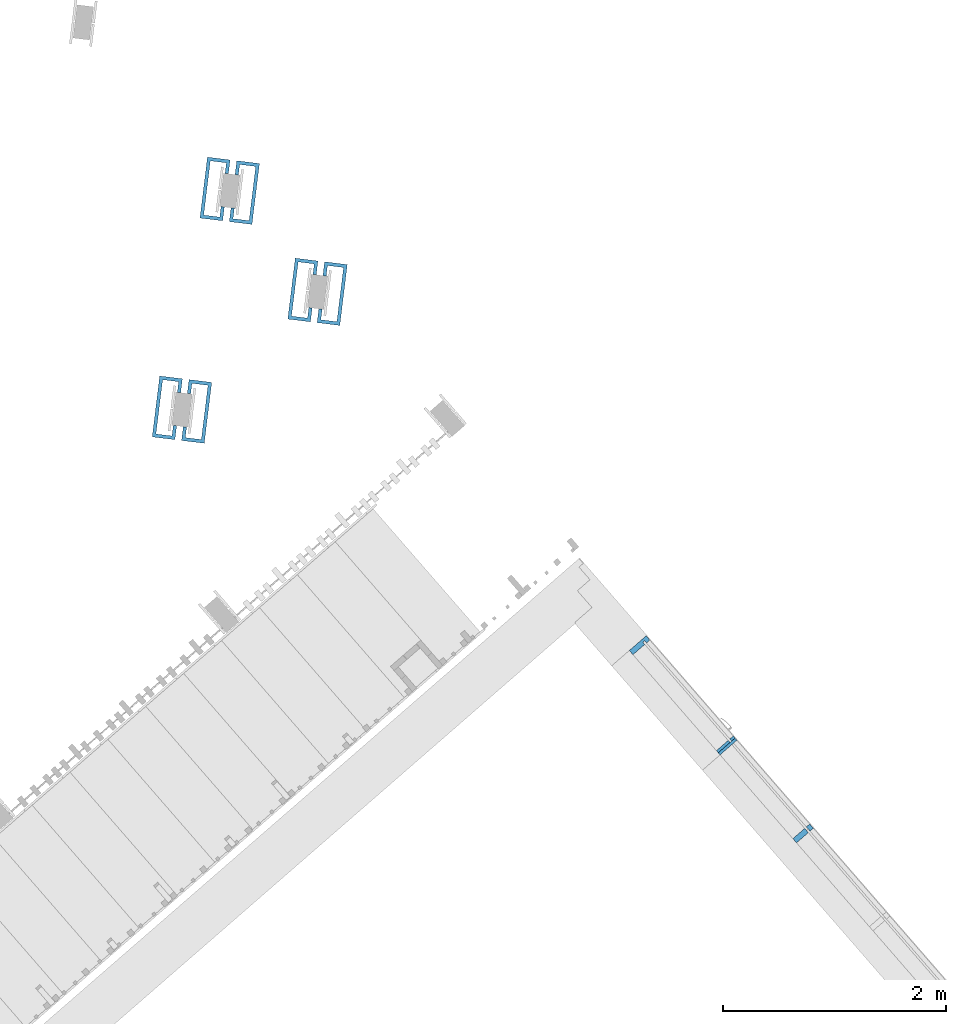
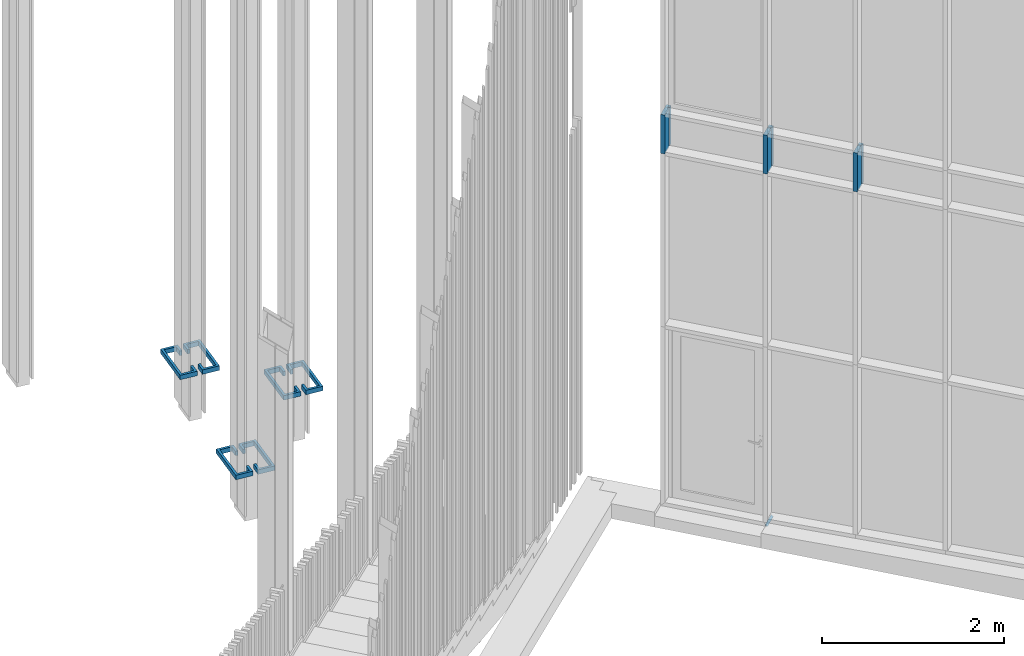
# One storey, part 70 of 390: 10 discrete accessories, 1 element without a shape of its own.
"""IFC2X3 building model written with IfcOpenShell, lengths in millimetres."""

import ifcopenshell
import ifcopenshell.guid

model = None  # the IFC model being written
_history = None  # IfcOwnerHistory: only IFC2X3 demands one
_inside = {}  # id of a spatial element -> (the spatial element, [elements in it])
_under = {}  # id of a project, library or spatial element -> (it, [spatial elements below it])
_declared = {}  # id of a project -> (the project, [libraries it declares])
_typed = {}  # id of a type object -> (the type object, [elements of that type])
_made_of = {}  # id of a material, layer set ... -> (it, [elements and type objects made of it])


def new_model(schema):
    """Start an empty IFC model of exactly this schema.

    Asked for "IFC4X3", IfcOpenShell would pick the latest addendum, in which some entities
    have other attributes; the version numbers below select the first issue.
    IFC2X3 requires an IfcOwnerHistory on every rooted entity: one is made here for all.
    """
    global model, _history
    if schema == "IFC4X3":
        model = ifcopenshell.file(schema_version=(4, 3, 0, 0))
    else:
        model = ifcopenshell.file(schema=schema)
    _inside.clear()
    _under.clear()
    _declared.clear()
    _typed.clear()
    _made_of.clear()
    _history = None
    if model.schema == "IFC2X3":
        org = make("IfcOrganization", Name="unknown")
        user = make(
            "IfcPersonAndOrganization",
            ThePerson=make("IfcPerson", FamilyName="unknown"),
            TheOrganization=org,
        )
        app = make(
            "IfcApplication",
            ApplicationDeveloper=org,
            Version="unknown",
            ApplicationFullName="unknown",
            ApplicationIdentifier="unknown",
        )
        _history = make(
            "IfcOwnerHistory",
            OwningUser=user,
            OwningApplication=app,
            ChangeAction="ADDED",
            CreationDate=0,
        )
    return model


def make(cls, **values):
    """One entity of the class cls with the attributes given. An attribute that is None is left unset."""
    return model.create_entity(
        cls, **{name: value for name, value in values.items() if value is not None}
    )


def entity(cls, *values):
    """Any entity or typed value of the class cls, its attributes in the order of the schema. None: left unset."""
    e = model.create_entity(cls)
    for i, value in enumerate(values):
        if value is not None:
            e[i] = value
    return e


def rooted(cls, **values):
    """An entity with a GlobalId (a new one), such as an element, a storey or a relation."""
    return make(cls, GlobalId=ifcopenshell.guid.new(), OwnerHistory=_history, **values)


def si_unit(unit_type, name, prefix=None):
    """IfcSIUnit, for example si_unit("LENGTHUNIT", "METRE", prefix="MILLI")."""
    return make("IfcSIUnit", UnitType=unit_type, Prefix=prefix, Name=name)


def converted_unit(unit_type, name, factor, base, dimensions=None, offset=None):
    """IfcConversionBasedUnit, such as the inch: factor (a typed value) times the base unit."""
    return make(
        "IfcConversionBasedUnit"
        if offset is None
        else "IfcConversionBasedUnitWithOffset",
        ConversionOffset=offset,
        Dimensions=None
        if dimensions is None
        else entity("IfcDimensionalExponents", *dimensions),
        UnitType=unit_type,
        Name=name,
        ConversionFactor=make(
            "IfcMeasureWithUnit", ValueComponent=factor, UnitComponent=base
        ),
    )


def derived_unit(unit_type, elements):
    """IfcDerivedUnit: a product of units, each with its exponent."""
    return make(
        "IfcDerivedUnit",
        Elements=[
            make("IfcDerivedUnitElement", Unit=unit, Exponent=power)
            for unit, power in elements
        ],
        UnitType=unit_type,
    )


def money_unit(currency):
    """IfcMonetaryUnit."""
    return make("IfcMonetaryUnit", Currency=currency)


def assignment(units):
    """IfcUnitAssignment: the units of a project."""
    return None if units is None else make("IfcUnitAssignment", Units=units)


def point(xyz):
    """IfcCartesianPoint."""
    return None if xyz is None else make("IfcCartesianPoint", Coordinates=xyz)


def direction(xyz):
    """IfcDirection."""
    return None if xyz is None else make("IfcDirection", DirectionRatios=xyz)


def frame(location, z_axis=None, x_axis=None):
    """IfcAxis2Placement3D, a coordinate frame: its origin and axes. An axis left out is left unset."""
    return make(
        "IfcAxis2Placement3D",
        Location=point(location),
        Axis=direction(z_axis),
        RefDirection=direction(x_axis),
    )


def origin_with_axes():
    """The frame at (0, 0, 0) with the z axis (0, 0, 1) and the x axis (1, 0, 0) written out."""
    return frame((0.0, 0.0, 0.0), z_axis=(0.0, 0.0, 1.0), x_axis=(1.0, 0.0, 0.0))


def place(relative_to, where):
    """IfcLocalPlacement: puts the frame where relative to a parent placement (None: the world)."""
    return make(
        "IfcLocalPlacement", PlacementRelTo=relative_to, RelativePlacement=where
    )


def context(
    kind, dimensions, precision=None, world=None, true_north=None, identifier=None
):
    """IfcGeometricRepresentationContext, for example the 3D "Model" context."""
    return make(
        "IfcGeometricRepresentationContext",
        ContextIdentifier=identifier,
        ContextType=kind,
        CoordinateSpaceDimension=dimensions,
        Precision=precision,
        WorldCoordinateSystem=world,
        TrueNorth=true_north,
    )


def subcontext(parent, identifier, kind, view, scale=None):
    """IfcGeometricRepresentationSubContext, for example "Body" below "Model"."""
    return make(
        "IfcGeometricRepresentationSubContext",
        ContextIdentifier=identifier,
        ContextType=kind,
        ParentContext=parent,
        TargetScale=scale,
        TargetView=view,
    )


def project(units=None, contexts=None):
    """IfcProject with its units and contexts."""
    return rooted(
        "IfcProject",
        Name="project",
        RepresentationContexts=contexts,
        UnitsInContext=assignment(units),
    )


def spatial(cls, under=None, at=None, **own):
    """A site, building, storey or space (cls), placed at a placement, below another one or the project."""
    s = rooted(cls, ObjectPlacement=at, **own)
    if under is not None:
        _under.setdefault(under.id(), (under, []))[1].append(s)
    return s


def polyline(points):
    """IfcPolyline through the points."""
    return make("IfcPolyline", Points=[point(p) for p in points])


def outline(outer, holes=None, kind="AREA"):
    """IfcArbitraryClosedProfileDef: a profile drawn as a closed curve; with holes, ...WithVoids."""
    if holes is None:
        return make("IfcArbitraryClosedProfileDef", ProfileType=kind, OuterCurve=outer)
    return make(
        "IfcArbitraryProfileDefWithVoids",
        ProfileType=kind,
        OuterCurve=outer,
        InnerCurves=holes,
    )


def extrude(swept, where, along, depth):
    """IfcExtrudedAreaSolid: the profile swept, set in the frame where, extruded along a direction by depth."""
    return make(
        "IfcExtrudedAreaSolid",
        SweptArea=swept,
        Position=where,
        ExtrudedDirection=direction(along),
        Depth=depth,
    )


def clip(a, b, op="DIFFERENCE"):
    """IfcBooleanClippingResult: the solid a cut by the half space b."""
    return make(
        "IfcBooleanClippingResult", Operator=op, FirstOperand=a, SecondOperand=b
    )


def halfspace(plane, agree):
    """IfcHalfSpaceSolid: all space on one side of the plane z = 0 of the frame plane."""
    return make(
        "IfcHalfSpaceSolid",
        BaseSurface=make("IfcPlane", Position=plane),
        AgreementFlag=agree,
    )


def shape(context_of_items, identifier, shape_type, items):
    """IfcShapeRepresentation: the items that make up one representation, for example the "Body"."""
    return make(
        "IfcShapeRepresentation",
        ContextOfItems=context_of_items,
        RepresentationIdentifier=identifier,
        RepresentationType=shape_type,
        Items=items,
    )


def material(Name=None, Category=None):
    """IfcMaterial."""
    return make("IfcMaterial", Name=Name, Category=Category)


def material_list(materials):
    """IfcMaterialList."""
    return make("IfcMaterialList", Materials=materials)


def made_of(thing, what):
    """Note that an element or type object is made of a material, layer set ...; save() writes the relation."""
    if what is not None:
        _made_of.setdefault(what.id(), (what, []))[1].append(thing)
    return thing


def type_object(cls, material=None, **own):
    """A type object (cls), such as IfcWallType, which elements share."""
    return made_of(rooted(cls, **own), material)


def element(
    cls,
    number,
    at=None,
    inside=None,
    cuts=None,
    type_object=None,
    material=None,
    context=None,
    identifier="Body",
    shape_type=None,
    held_by="IfcProductDefinitionShape",
    body=None,
    shapes=None,
    **own,
):
    """One element of the class cls, such as IfcWall. Its Tag is "e" and its number.

    at: its placement. inside: the storey or other place that contains it. cuts: it is an
    opening in that element (IfcRelVoidsElement). A single representation is given by context,
    identifier, shape_type and body (its items); several are given by shapes. held_by: the class
    of the entity that holds the representations. save() writes the other relations.
    """
    e = rooted(cls, Tag="e%d" % number, ObjectPlacement=at, **own)
    if body is not None:
        shapes = [shape(context, identifier, shape_type, body)]
    if shapes is not None:
        e.Representation = make(held_by, Representations=shapes)
    if inside is not None:
        _inside.setdefault(inside.id(), (inside, []))[1].append(e)
    if cuts is not None:
        rooted(
            "IfcRelVoidsElement", RelatingBuildingElement=cuts, RelatedOpeningElement=e
        )
    if type_object is not None:
        _typed.setdefault(type_object.id(), (type_object, []))[1].append(e)
    return made_of(e, material)


def aggregate(whole, parts):
    """IfcRelAggregates: a whole, such as a stair, and the parts it consists of."""
    return rooted("IfcRelAggregates", RelatingObject=whole, RelatedObjects=parts)


def save(model, path):
    """Write the relations noted so far, then the file.

    IfcRelAggregates (storeys below a building ...), IfcRelContainedInSpatialStructure (elements
    in a storey), IfcRelDefinesByType, IfcRelAssociatesMaterial and IfcRelDeclares: one each for
    every whole, place, type object, material and project.
    """
    for whole, parts in _under.values():
        aggregate(whole, parts)
    for where, things in _inside.values():
        rooted(
            "IfcRelContainedInSpatialStructure",
            RelatedElements=things,
            RelatingStructure=where,
        )
    for kind, things in _typed.values():
        rooted("IfcRelDefinesByType", RelatedObjects=things, RelatingType=kind)
    for what, things in _made_of.values():
        rooted("IfcRelAssociatesMaterial", RelatedObjects=things, RelatingMaterial=what)
    for by, libraries in _declared.values():
        rooted("IfcRelDeclares", RelatingContext=by, RelatedDefinitions=libraries)
    model.write(path)


model = new_model("IFC2X3")

# Units and contexts
model_context = context("Model", 3, precision=1e-05, world=origin_with_axes(), true_north=direction((0.0, 1.0)))
body_context = subcontext(model_context, "Body", "Model", "MODEL_VIEW")
ifc_project = project(units=[si_unit("LENGTHUNIT", "METRE", prefix="MILLI"), si_unit("AREAUNIT", "SQUARE_METRE"), si_unit("VOLUMEUNIT", "CUBIC_METRE"), converted_unit("PLANEANGLEUNIT", "DEGREE", entity("IfcPlaneAngleMeasure", 0.0174532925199), si_unit("PLANEANGLEUNIT", "RADIAN"), dimensions=[0, 0, 0, 0, 0, 0, 0]), si_unit("SOLIDANGLEUNIT", "STERADIAN"), money_unit("EUR"), converted_unit("TIMEUNIT", "Year", entity("IfcTimeMeasure", 31556926.0), si_unit("TIMEUNIT", "SECOND"), dimensions=[0, 0, 1, 0, 0, 0, 0]), si_unit("MASSUNIT", "GRAM", prefix="KILO"), si_unit("THERMODYNAMICTEMPERATUREUNIT", "DEGREE_CELSIUS"), si_unit("LUMINOUSINTENSITYUNIT", "LUMEN"), si_unit("ENERGYUNIT", "JOULE", prefix="MEGA"), derived_unit("THERMALCONDUCTANCEUNIT", [(si_unit("POWERUNIT", "WATT"), 1), (si_unit("LENGTHUNIT", "METRE"), -1), (si_unit("THERMODYNAMICTEMPERATUREUNIT", "KELVIN"), -1)]), derived_unit("SPECIFICHEATCAPACITYUNIT", [(si_unit("ENERGYUNIT", "JOULE"), 1), (si_unit("MASSUNIT", "GRAM", prefix="KILO"), -1), (si_unit("THERMODYNAMICTEMPERATUREUNIT", "KELVIN"), -1)]), derived_unit("MASSDENSITYUNIT", [(si_unit("MASSUNIT", "GRAM", prefix="KILO"), 1), (si_unit("VOLUMEUNIT", "CUBIC_METRE"), -1)])], contexts=[model_context])

# Site, building, storey
site_placement = place(None, origin_with_axes())
site = spatial("IfcSite", under=ifc_project, at=site_placement, Name="Site", CompositionType="ELEMENT")
building_placement = place(site_placement, origin_with_axes())
building = spatial("IfcBuilding", under=site, at=building_placement, Name="Building", CompositionType="ELEMENT")
storey_placement = place(building_placement, origin_with_axes())
storey = spatial("IfcBuildingStorey", under=building, at=storey_placement, Name="1 korrus", CompositionType="ELEMENT", Elevation=0.0)

# Curtain wall, discrete accessories
curtain_wall_type = type_object("IfcCurtainWallType", Name="KLF-17", PredefinedType="NOTDEFINED")
curtain_wall_placement = place(storey_placement, frame((175630.823927, 104534.758561, -0.000216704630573), z_axis=(0.0, 0.0, 1.0), x_axis=(1.0, 0.0, 0.0)))
curtain_wall = element("IfcCurtainWall", 1, at=curtain_wall_placement, inside=storey, type_object=curtain_wall_type, Name="Klaasfassaad")
discrete_accessory_type_1 = type_object("IfcDiscreteAccessoryType", Name="50 x 200")
discrete_accessory_1_placement = place(curtain_wall_placement, frame((-8328.66937302, 9581.03812094, 4720.0002167), z_axis=(0.0, 0.0, 1.0), x_axis=(-0.65605902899, 0.754709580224, 0.0)))
discrete_accessory_1 = element("IfcDiscreteAccessory", 2, at=discrete_accessory_1_placement, type_object=discrete_accessory_type_1, Name="KLF-17 profiil", context=body_context, shape_type="SweptSolid", body=[
    extrude(outline(polyline([(8.8543799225, -25.4283297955), (23.948571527, -12.3071492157), (7.54709580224, 6.56059028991), (-7.54709580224, -6.56059028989), (8.8543799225, -25.4283297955)])), frame((0.0, 0.0, 0.0), z_axis=(0.0, 0.0, 1.0), x_axis=(-0.65605902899, -0.754709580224, 0.0)), (0.0, 0.0, 1.0), 520.0),
    extrude(outline(polyline([(-80.403485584, -136.14433336), (25.2558556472, -44.2960693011), (-7.54709580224, -6.56059028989), (-113.206437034, -98.4088543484), (-80.403485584, -136.14433336)])), frame((0.0, 0.0, 0.0), z_axis=(0.0, 0.0, 1.0), x_axis=(-0.65605902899, -0.754709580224, 0.0)), (0.0, 0.0, 1.0), 520.0),
    extrude(outline(polyline([(37.7354790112, 32.8029514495), (7.54709580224, 6.56059028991), (40.3500472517, -31.1748887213), (70.5384304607, -4.93252756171), (37.7354790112, 32.8029514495)])), frame((0.0, 0.0, 0.0), z_axis=(0.0, 0.0, 1.0), x_axis=(-0.65605902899, -0.754709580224, 0.0)), (0.0, 0.0, 1.0), 520.0),
])
ifc_material_1 = material(Name="Aluminium MUST")
ifc_material_list = material_list([ifc_material_1, ifc_material_1])
discrete_accessory_2_placement = place(curtain_wall_placement, frame((-7531.5576528, 8664.06598097, 4720.0002167), z_axis=(0.0, 0.0, 1.0), x_axis=(-0.65605902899, 0.754709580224, 0.0)))
discrete_accessory_2 = element("IfcDiscreteAccessory", 3, at=discrete_accessory_2_placement, type_object=discrete_accessory_type_1, material=ifc_material_list, Name="KLF-17 profiil", context=body_context, shape_type="SweptSolid", body=[
    extrude(outline(polyline([(-129.607912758, -79.5411148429), (-96.8049613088, -117.276593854), (8.8543799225, -25.4283297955), (-23.948571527, 12.3071492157), (-129.607912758, -79.5411148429)])), frame((0.0, 0.0, 0.0), z_axis=(0.0, 0.0, 1.0), x_axis=(-0.65605902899, -0.754709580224, 0.0)), (0.0, 0.0, 1.0), 520.0),
    extrude(outline(polyline([(54.136954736, 13.9352119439), (21.3340032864, 51.6706909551), (-8.8543799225, 25.4283297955), (23.948571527, -12.3071492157), (54.136954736, 13.9352119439)])), frame((0.0, 0.0, 0.0), z_axis=(0.0, 0.0, 1.0), x_axis=(-0.65605902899, -0.754709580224, 0.0)), (0.0, 0.0, 1.0), 520.0),
])
discrete_accessory_3_placement = place(curtain_wall_placement, frame((-6845.97596751, 7875.39446963, 4720.0002167), z_axis=(0.0, 0.0, 1.0), x_axis=(-0.65605902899, 0.754709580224, 0.0)))
discrete_accessory_3 = element("IfcDiscreteAccessory", 4, at=discrete_accessory_3_placement, type_object=discrete_accessory_type_1, material=ifc_material_list, Name="KLF-17 profiil", context=body_context, shape_type="SweptSolid", body=[
    extrude(outline(polyline([(-129.607912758, -79.5411148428), (-96.8049613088, -117.276593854), (8.8543799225, -25.4283297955), (-23.948571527, 12.3071492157), (-129.607912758, -79.5411148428)])), frame((0.0, 0.0, 0.0), z_axis=(0.0, 0.0, 1.0), x_axis=(-0.65605902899, -0.754709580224, 0.0)), (0.0, 0.0, 1.0), 520.0),
    extrude(outline(polyline([(54.1369547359, 13.9352119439), (21.3340032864, 51.670690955), (-8.8543799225, 25.4283297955), (23.948571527, -12.3071492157), (54.1369547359, 13.9352119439)])), frame((0.0, 0.0, 0.0), z_axis=(0.0, 0.0, 1.0), x_axis=(-0.65605902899, -0.754709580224, 0.0)), (0.0, 0.0, 1.0), 520.0),
])
discrete_accessory_4_placement = place(curtain_wall_placement, frame((-7531.5576528, 8664.06598097, 0.0), z_axis=(0.65605902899, -0.754709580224, 0.0), x_axis=(0.0, 0.0, 1.0)))
discrete_accessory_4 = element("IfcDiscreteAccessory", 5, at=discrete_accessory_4_placement, type_object=discrete_accessory_type_1, Name="KLF-17 profiil", context=body_context, shape_type="Clipping", body=[
    clip(extrude(outline(polyline([(10.0, -25.0), (10.0, 0.0), (-9.99999999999, 0.0), (-9.99999999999, -25.0), (10.0, -25.0)])), frame((0.0, 0.0, 0.0), z_axis=(0.0, 0.0, 1.0), x_axis=(0.0, 1.0, 0.0)), (0.0, 0.0, 1.0), 25.0000843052), halfspace(frame((12.5000421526, 0.0, 12.5000421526), z_axis=(-0.707106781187, 0.0, -0.707106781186), x_axis=(0.0, 1.0, 0.0)), True)),
    clip(extrude(outline(polyline([(9.99999999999, -25.0000843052), (150.0, -25.0000843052), (150.0, 0.0), (10.0, 0.0), (9.99999999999, -25.0000843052)])), frame((0.0, 0.0, 0.0), z_axis=(0.0, 0.0, 1.0), x_axis=(0.0, 1.0, 0.0)), (0.0, 0.0, 1.0), 25.0000843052), halfspace(frame((12.5000421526, 0.0, 12.5000421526), z_axis=(-0.707106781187, 0.0, -0.707106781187), x_axis=(0.0, 1.0, 0.0)), True)),
    clip(extrude(outline(polyline([(-9.99999999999, -25.0000843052), (-9.99999999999, 0.0), (-50.0, 0.0), (-50.0, -25.0000843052), (-9.99999999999, -25.0000843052)])), frame((0.0, 0.0, 0.0), z_axis=(0.0, 0.0, 1.0), x_axis=(0.0, 1.0, 0.0)), (0.0, 0.0, 1.0), 25.0000843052), halfspace(frame((12.5000421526, 0.0, 12.5000421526), z_axis=(-0.707106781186, 0.0, -0.707106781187), x_axis=(0.0, 1.0, 0.0)), True)),
])
aggregate(curtain_wall, [discrete_accessory_1, discrete_accessory_2, discrete_accessory_3, discrete_accessory_4])

# Discrete accessories
ifc_material_2 = material(Name="Teras (musta värvi)")
discrete_accessory_type_2 = type_object("IfcDiscreteAccessoryType", Name="Teras (musta värvi) 60")
discrete_accessory_5_placement = place(storey_placement, frame((163407.131544, 118439.691617, 740.0), z_axis=(0.0, 0.0, 1.0), x_axis=(1.0, 0.0, 0.0)))
element("IfcDiscreteAccessory", 6, at=discrete_accessory_5_placement, inside=storey, type_object=discrete_accessory_type_2, material=ifc_material_2, Name="Rattahoidja", context=body_context, shape_type="SweptSolid", body=[
    extrude(outline(polyline([(0.0, 0.0), (-67.0281391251, -545.900380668), (136.443824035, -570.883598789), (151.677492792, -446.815333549), (121.901106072, -443.159248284), (110.323514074, -537.451135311), (-33.5956756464, -519.780079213), (26.1203014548, -33.4324634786), (170.039499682, -51.1035195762), (158.461907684, -145.395406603), (188.238294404, -149.051483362), (203.471963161, -24.9832181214), (0.0, 0.0)])), frame((0.0, 0.0, -60.0), z_axis=(0.0, 0.0, 1.0), x_axis=(1.0, 0.0, 0.0)), (0.0, 0.0, 1.0), 60.0),
])
discrete_accessory_6_placement = place(storey_placement, frame((163873.628235, 118382.413026, 740.0), z_axis=(0.0, 0.0, 1.0), x_axis=(1.0, 0.0, 0.0)))
element("IfcDiscreteAccessory", 7, at=discrete_accessory_6_placement, inside=storey, type_object=discrete_accessory_type_2, material=ifc_material_2, Name="Rattahoidja", context=body_context, shape_type="SweptSolid", body=[
    extrude(outline(polyline([(0.0, 0.0), (-203.471963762, 24.9832132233), (-218.705629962, -99.0850523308), (-188.929244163, -102.741136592), (-177.351660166, -8.44924858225), (-33.4324618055, -26.1203035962), (-93.1484414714, -512.467919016), (-237.067631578, -494.79686606), (-225.49004758, -400.504978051), (-255.266435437, -396.848902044), (-270.500101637, -520.917167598), (-67.0281378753, -545.900380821), (0.0, 0.0)])), frame((0.0, 0.0, -60.0), z_axis=(0.0, 0.0, 1.0), x_axis=(1.0, 0.0, 0.0)), (0.0, 0.0, 1.0), 60.0),
])
discrete_accessory_7_placement = place(storey_placement, frame((164194.402379, 117534.040121, 740.0), z_axis=(0.0, 0.0, 1.0), x_axis=(1.0, 0.0, 0.0)))
element("IfcDiscreteAccessory", 8, at=discrete_accessory_7_placement, inside=storey, type_object=discrete_accessory_type_2, material=ifc_material_2, Name="Rattahoidja", context=body_context, shape_type="SweptSolid", body=[
    extrude(outline(polyline([(0.0, 0.0), (-67.0281391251, -545.900380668), (136.443824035, -570.883598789), (151.677492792, -446.815333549), (121.901106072, -443.159248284), (110.323514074, -537.451135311), (-33.5956756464, -519.780079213), (26.1203014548, -33.4324634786), (170.039499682, -51.1035195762), (158.461907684, -145.395406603), (188.238294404, -149.051483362), (203.471963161, -24.9832181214), (0.0, 0.0)])), frame((0.0, 0.0, -60.0), z_axis=(0.0, 0.0, 1.0), x_axis=(1.0, 0.0, 0.0)), (0.0, 0.0, 1.0), 60.0),
])
discrete_accessory_8_placement = place(storey_placement, frame((164660.89907, 117476.761529, 740.0), z_axis=(0.0, 0.0, 1.0), x_axis=(1.0, 0.0, 0.0)))
element("IfcDiscreteAccessory", 9, at=discrete_accessory_8_placement, inside=storey, type_object=discrete_accessory_type_2, material=ifc_material_2, Name="Rattahoidja", context=body_context, shape_type="SweptSolid", body=[
    extrude(outline(polyline([(0.0, 0.0), (-203.471963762, 24.9832132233), (-218.705629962, -99.0850523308), (-188.929244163, -102.741136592), (-177.351660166, -8.44924858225), (-33.4324618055, -26.1203035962), (-93.1484414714, -512.467919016), (-237.067631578, -494.79686606), (-225.49004758, -400.504978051), (-255.266435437, -396.848902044), (-270.500101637, -520.917167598), (-67.0281378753, -545.900380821), (0.0, 0.0)])), frame((0.0, 0.0, -60.0), z_axis=(0.0, 0.0, 1.0), x_axis=(1.0, 0.0, 0.0)), (0.0, 0.0, 1.0), 60.0),
])
discrete_accessory_9_placement = place(storey_placement, frame((162979.319955, 116477.785084, 740.0), z_axis=(0.0, 0.0, 1.0), x_axis=(1.0, 0.0, 0.0)))
element("IfcDiscreteAccessory", 10, at=discrete_accessory_9_placement, inside=storey, type_object=discrete_accessory_type_2, material=ifc_material_2, Name="Rattahoidja", context=body_context, shape_type="SweptSolid", body=[
    extrude(outline(polyline([(0.0, 0.0), (-67.0281391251, -545.900380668), (136.443824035, -570.883598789), (151.677492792, -446.815333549), (121.901106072, -443.159248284), (110.323514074, -537.451135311), (-33.5956756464, -519.780079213), (26.1203014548, -33.4324634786), (170.039499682, -51.1035195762), (158.461907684, -145.395406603), (188.238294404, -149.051483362), (203.471963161, -24.9832181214), (0.0, 0.0)])), frame((0.0, 0.0, -60.0), z_axis=(0.0, 0.0, 1.0), x_axis=(1.0, 0.0, 0.0)), (0.0, 0.0, 1.0), 60.0),
])
discrete_accessory_10_placement = place(storey_placement, frame((163445.816646, 116420.506493, 740.0), z_axis=(0.0, 0.0, 1.0), x_axis=(1.0, 0.0, 0.0)))
element("IfcDiscreteAccessory", 11, at=discrete_accessory_10_placement, inside=storey, type_object=discrete_accessory_type_2, material=ifc_material_2, Name="Rattahoidja", context=body_context, shape_type="SweptSolid", body=[
    extrude(outline(polyline([(0.0, 0.0), (-203.471963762, 24.9832132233), (-218.705629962, -99.0850523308), (-188.929244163, -102.741136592), (-177.351660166, -8.44924858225), (-33.4324618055, -26.1203035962), (-93.1484414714, -512.467919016), (-237.067631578, -494.79686606), (-225.49004758, -400.504978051), (-255.266435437, -396.848902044), (-270.500101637, -520.917167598), (-67.0281378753, -545.900380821), (0.0, 0.0)])), frame((0.0, 0.0, -60.0), z_axis=(0.0, 0.0, 1.0), x_axis=(1.0, 0.0, 0.0)), (0.0, 0.0, 1.0), 60.0),
])

save(model, "model.ifc")
